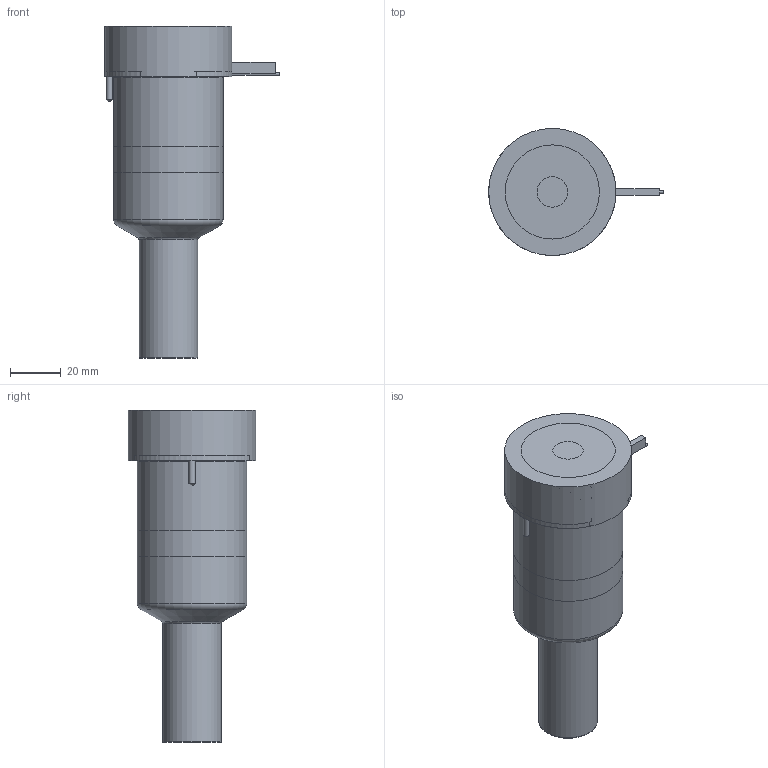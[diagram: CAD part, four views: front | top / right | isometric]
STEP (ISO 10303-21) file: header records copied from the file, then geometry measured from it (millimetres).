
FILE_DESCRIPTION(/* description */ (''),/* implementation_level */ '2;1');
FILE_NAME(/* name */ 'BXTSL-BXISL-BXOSL27075_200C_b',/* time_stamp */ '2008-04-29T14:06:00+12:00',/* author */ (''),/* organization */ (''),/* preprocessor_version */ 'ST-DEVELOPER v9',/* originating_system */ 'UGS - NX 4.0',/* authorisation */ '');
FILE_SCHEMA (('CONFIG_CONTROL_DESIGN'));
Length unit declared in the file: millimetre
Products named in the file (1): BXTSL-BXISL-BXOSL27075_200C_b
Bounding box: 68.6 x 50 x 130.49 mm (x, y, z)
Volume: 283606.2 mm3; surface area: 41549.4 mm2
Topology: 6 solids, 6 shells, 74 faces, 148 edges, 96 vertices
Faces by surface type: plane 33, cylinder 23, cone 9, torus 8, bspline 1
Full cylindrical faces by diameter (mm): 1 x3, 2 x1, 2.5 x2, 12 x1, 22.61 x1, 23.01 x2, 27.5 x1, 38.1 x1, 43 x2, 50 x1
Entity records: 1987 total; most frequent: CARTESIAN_POINT 481, DIRECTION 312, ORIENTED_EDGE 230, AXIS2_PLACEMENT_3D 137, EDGE_CURVE 115, EDGE_LOOP 110, VERTEX_POINT 90, ADVANCED_FACE 74
